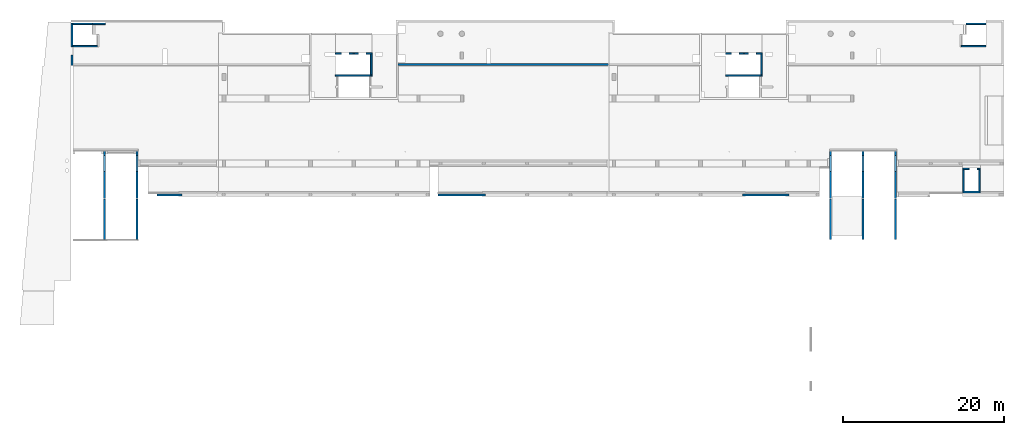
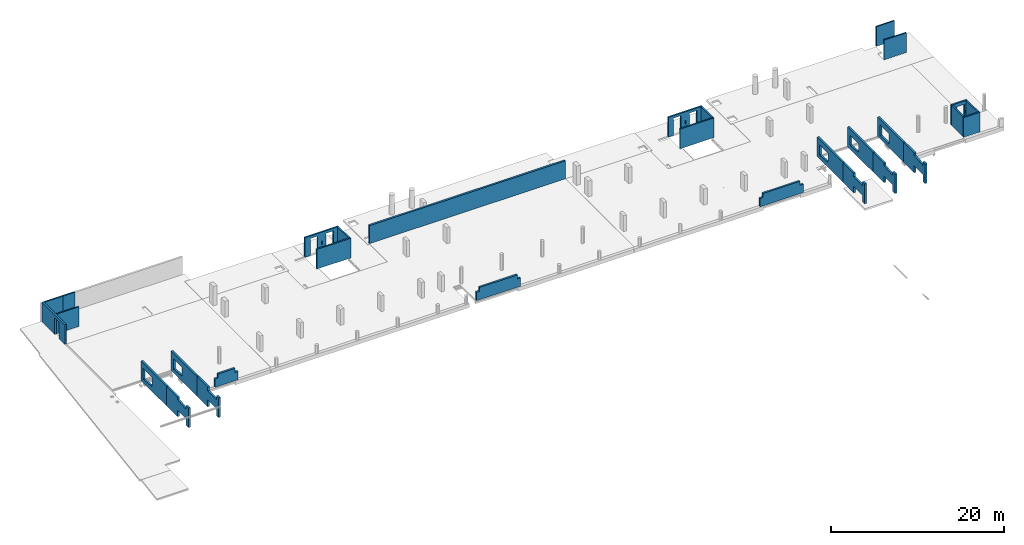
# One storey, part 4 of 8: 30 walls, 31 openings.
"""IFC2X3 building model written with IfcOpenShell, lengths in millimetres."""

from ifc_helpers import new_model, entity, si_unit, converted_unit, derived_unit, direction, frame, frame_2d, origin, origin_2d_with_axis, place, context, subcontext, project, spatial, polyline, rectangle, outline, extrude, material, layer, layer_set, layer_usage, type_object, element, save


model = new_model("IFC2X3")

# Units and contexts
model_context = context("Model", 3, precision=0.01, world=origin(), true_north=direction((6.12303176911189e-17, 1.0)))
body_context = subcontext(model_context, "Body", "Model", "MODEL_VIEW")
ifc_project = project(units=[si_unit("LENGTHUNIT", "METRE", prefix="MILLI"), si_unit("AREAUNIT", "SQUARE_METRE"), si_unit("VOLUMEUNIT", "CUBIC_METRE"), converted_unit("PLANEANGLEUNIT", "DEGREE", entity("IfcRatioMeasure", 0.0174532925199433), si_unit("PLANEANGLEUNIT", "RADIAN"), dimensions=[0, 0, 0, 0, 0, 0, 0]), si_unit("MASSUNIT", "GRAM", prefix="KILO"), derived_unit("MASSDENSITYUNIT", [(si_unit("MASSUNIT", "GRAM", prefix="KILO"), 1), (si_unit("LENGTHUNIT", "METRE"), -3)]), si_unit("TIMEUNIT", "SECOND"), si_unit("FREQUENCYUNIT", "HERTZ"), si_unit("THERMODYNAMICTEMPERATUREUNIT", "DEGREE_CELSIUS"), derived_unit("THERMALTRANSMITTANCEUNIT", [(si_unit("MASSUNIT", "GRAM", prefix="KILO"), 1), (si_unit("THERMODYNAMICTEMPERATUREUNIT", "KELVIN"), -1), (si_unit("TIMEUNIT", "SECOND"), -3)]), derived_unit("VOLUMETRICFLOWRATEUNIT", [(si_unit("LENGTHUNIT", "METRE"), 3), (si_unit("TIMEUNIT", "SECOND"), -1)]), si_unit("ELECTRICCURRENTUNIT", "AMPERE"), si_unit("ELECTRICVOLTAGEUNIT", "VOLT"), si_unit("POWERUNIT", "WATT"), si_unit("FORCEUNIT", "NEWTON", prefix="KILO"), si_unit("ILLUMINANCEUNIT", "LUX"), si_unit("LUMINOUSFLUXUNIT", "LUMEN"), si_unit("LUMINOUSINTENSITYUNIT", "CANDELA"), derived_unit("USERDEFINED", [(si_unit("MASSUNIT", "GRAM", prefix="KILO"), -1), (si_unit("LENGTHUNIT", "METRE"), -2), (si_unit("TIMEUNIT", "SECOND"), 3), (si_unit("LUMINOUSFLUXUNIT", "LUMEN"), 1)]), derived_unit("LINEARVELOCITYUNIT", [(si_unit("LENGTHUNIT", "METRE"), 1), (si_unit("TIMEUNIT", "SECOND"), -1)]), si_unit("PRESSUREUNIT", "PASCAL"), derived_unit("USERDEFINED", [(si_unit("LENGTHUNIT", "METRE"), -2), (si_unit("MASSUNIT", "GRAM", prefix="KILO"), 1), (si_unit("TIMEUNIT", "SECOND"), -2)])], contexts=[model_context])

# Site, building, storey
site_placement = place(None, origin())
site = spatial("IfcSite", under=ifc_project, at=site_placement, Name="Default", CompositionType="ELEMENT")
building_placement = place(site_placement, origin())
building = spatial("IfcBuilding", under=site, at=building_placement, Name="niet gebruiken", CompositionType="ELEMENT")
storey_placement = place(building_placement, frame((0.0, 0.0, 3810.0)))
storey = spatial("IfcBuildingStorey", under=building, at=storey_placement, Name="01a eerste tussenverdieping", CompositionType="ELEMENT", Elevation=3810.0)

# Wall
ifc_material_1 = material(Name="NLRS_f2_beton ihwg")
ifc_layer_1 = layer(ifc_material_1, 250.0)
ifc_layer_set_1 = layer_set([ifc_layer_1], Name="Basic Wall:NLRS_22.21_WA_beton ihwg d=250_gen")
ifc_layer_usage_1 = layer_usage(ifc_layer_set_1, "AXIS2", "NEGATIVE", 125.0)
wall_type_1 = type_object("IfcWallType", Name="Basic Wall:NLRS_22.21_WA_beton ihwg d=250_gen", PredefinedType="STANDARD", material=ifc_layer_set_1)
wall_1_placement = place(storey_placement, frame((74950.0, 41186.0, 0.0), z_axis=(0.0, 0.0, 1.0), x_axis=(-1.0, 0.0, 0.0)))
element("IfcWallStandardCase", 1, at=wall_1_placement, inside=storey, type_object=wall_type_1, material=ifc_layer_usage_1, Name="Basic Wall:NLRS_22.21_WA_beton ihwg d=250_gen", ObjectType="Basic Wall:NLRS_22.21_WA_beton ihwg d=250_gen", context=body_context, shape_type="SweptSolid", body=[
    extrude(rectangle(XDim=26224.9999999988, YDim=249.999999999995, at=frame_2d((13112.4999999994, -2.26663132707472e-12), x_axis=(-1.0, 0.0))), origin(), (0.0, 0.0, 1.0), 2550.0),
])

# Wall, opening
ifc_material_2 = material(Name="NLRS_f2_beton prefab")
ifc_layer_2 = layer(ifc_material_2, 250.0)
ifc_layer_set_2 = layer_set([ifc_layer_2], Name="Basic Wall:NLRS_22.21_WA_beton prefab d=250_gen")
ifc_layer_usage_2 = layer_usage(ifc_layer_set_2, "AXIS2", "NEGATIVE", 125.0)
wall_type_2 = type_object("IfcWallType", Name="Basic Wall:NLRS_22.21_WA_beton prefab d=250_gen", PredefinedType="STANDARD", material=ifc_layer_set_2)
wall_2_placement = place(storey_placement, frame((8100.0, 41061.0, 20.0), z_axis=(0.0, 0.0, 1.0), x_axis=(0.0, 1.0, 0.0)))
wall_2 = element("IfcWallStandardCase", 2, at=wall_2_placement, inside=storey, type_object=wall_type_2, material=ifc_layer_usage_2, Name="Basic Wall:NLRS_22.21_WA_beton prefab d=250_gen", ObjectType="Basic Wall:NLRS_22.21_WA_beton prefab d=250_gen", context=body_context, shape_type="SweptSolid", body=[
    extrude(rectangle(XDim=5294.99999999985, YDim=249.999999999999, at=frame_2d((2647.49999999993, 2.41584530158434e-13), x_axis=(-1.0, 0.0))), origin(), (0.0, 0.0, 1.0), 2780.0),
])
opening_1_placement = place(wall_2_placement, origin())
element("IfcOpeningElement", 3, at=opening_1_placement, cuts=wall_2, Name="Basic Wall:NLRS_22.21_WA_beton prefab d=250_gen", ObjectType="Opening", context=body_context, shape_type="SweptSolid", body=[
    extrude(rectangle(XDim=2450.0, YDim=1025.0, at=frame_2d((-4.32009983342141e-12, -2.27373675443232e-13), x_axis=(0.0, 1.0))), frame((1822.50000000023, -1399.0, 1135.0), z_axis=(0.0, 1.0, 0.0), x_axis=(-1.0, 0.0, 0.0)), (0.0, 0.0, 1.0), 3048.0),
])

ifc_layer_usage_3 = layer_usage(ifc_layer_set_2, "AXIS2", "NEGATIVE", 125.0)
wall_3_placement = place(storey_placement, frame((16200.0, 30426.0, -50.0), z_axis=(0.0, 0.0, 1.0), x_axis=(0.0, -1.0, 0.0)))
wall_3 = element("IfcWallStandardCase", 4, at=wall_3_placement, inside=storey, type_object=wall_type_2, material=ifc_layer_usage_3, Name="Basic Wall:NLRS_22.21_WA_beton prefab d=250_gen", ObjectType="Basic Wall:NLRS_22.21_WA_beton prefab d=250_gen", context=body_context, shape_type="SweptSolid", body=[
    extrude(rectangle(XDim=5934.99999999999, YDim=249.999999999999, at=frame_2d((2967.5, 0.0), x_axis=(-1.0, 0.0))), origin(), (0.0, 0.0, 1.0), 2780.0),
])
opening_2_placement = place(wall_3_placement, origin())
element("IfcOpeningElement", 5, at=opening_2_placement, cuts=wall_3, Name="Basic Wall:NLRS_22.21_WA_beton prefab d=250_gen", ObjectType="Opening", context=body_context, shape_type="SweptSolid", body=[
    extrude(outline(polyline([(-686.502487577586, -1000.0), (786.502487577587, -1000.0), (586.502487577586, 1000.0), (-686.502487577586, 1000.0), (-686.502487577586, -1000.0)])), frame((1550.0, 125.0, 1313.49751242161), z_axis=(0.0, -1.0, 0.0), x_axis=(0.0, 0.0, -1.0)), (0.0, 0.0, 1.0), 250.0),
])

ifc_layer_usage_4 = layer_usage(ifc_layer_set_2, "AXIS2", "NEGATIVE", 125.0)
wall_4_placement = place(storey_placement, frame((102600.0, 30426.0, -50.0), z_axis=(0.0, 0.0, 1.0), x_axis=(0.0, -1.0, 0.0)))
wall_4 = element("IfcWallStandardCase", 6, at=wall_4_placement, inside=storey, type_object=wall_type_2, material=ifc_layer_usage_4, Name="Basic Wall:NLRS_22.21_WA_beton prefab d=250_gen", ObjectType="Basic Wall:NLRS_22.21_WA_beton prefab d=250_gen", context=body_context, shape_type="SweptSolid", body=[
    extrude(rectangle(XDim=5934.99999999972, YDim=250.000000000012, at=frame_2d((2967.49999999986, 0.0), x_axis=(-1.0, 0.0))), origin(), (0.0, 0.0, 1.0), 2780.0),
])
opening_3_placement = place(wall_4_placement, origin())
element("IfcOpeningElement", 7, at=opening_3_placement, cuts=wall_4, Name="Basic Wall:NLRS_22.21_WA_beton prefab d=250_gen", ObjectType="Opening", context=body_context, shape_type="SweptSolid", body=[
    extrude(outline(polyline([(-576.502487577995, -1000.0), (676.502487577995, -1000.0), (676.502487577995, 1000.0), (-776.502487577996, 1000.0), (-576.502487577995, -1000.0)])), frame((1550.0, 125.0, 1303.49751242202), z_axis=(0.0, -1.0, 0.0), x_axis=(0.0, 0.0, 1.0)), (0.0, 0.0, 1.0), 250.0),
])

ifc_layer_usage_5 = layer_usage(ifc_layer_set_2, "AXIS2", "NEGATIVE", 125.0)
wall_5_placement = place(storey_placement, frame((106650.0, 30426.0, -50.0), z_axis=(0.0, 0.0, 1.0), x_axis=(0.0, -1.0, 0.0)))
wall_5 = element("IfcWallStandardCase", 8, at=wall_5_placement, inside=storey, type_object=wall_type_2, material=ifc_layer_usage_5, Name="Basic Wall:NLRS_22.21_WA_beton prefab d=250_gen", ObjectType="Basic Wall:NLRS_22.21_WA_beton prefab d=250_gen", context=body_context, shape_type="SweptSolid", body=[
    extrude(rectangle(XDim=5934.99999999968, YDim=250.000000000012, at=frame_2d((2967.49999999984, 0.0), x_axis=(-1.0, 0.0))), origin(), (0.0, 0.0, 1.0), 2780.0),
])
opening_4_placement = place(wall_5_placement, origin())
element("IfcOpeningElement", 9, at=opening_4_placement, cuts=wall_5, Name="Basic Wall:NLRS_22.21_WA_beton prefab d=250_gen", ObjectType="Opening", context=body_context, shape_type="SweptSolid", body=[
    extrude(outline(polyline([(-1000.0, -676.502487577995), (1000.0, -676.502487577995), (1000.0, 776.502487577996), (-1000.0, 576.502487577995), (-1000.0, -676.502487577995)])), frame((1550.0, 125.0, 1303.49751242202), z_axis=(0.0, -1.0, 0.0), x_axis=(-1.0, 0.0, 0.0)), (0.0, 0.0, 1.0), 250.0),
])

ifc_layer_usage_6 = layer_usage(ifc_layer_set_2, "AXIS2", "NEGATIVE", 125.0)
wall_6_placement = place(storey_placement, frame((110700.0, 30426.0, -50.0), z_axis=(0.0, 0.0, 1.0), x_axis=(0.0, -1.0, 0.0)))
wall_6 = element("IfcWallStandardCase", 10, at=wall_6_placement, inside=storey, type_object=wall_type_2, material=ifc_layer_usage_6, Name="Basic Wall:NLRS_22.21_WA_beton prefab d=250_gen", ObjectType="Basic Wall:NLRS_22.21_WA_beton prefab d=250_gen", context=body_context, shape_type="SweptSolid", body=[
    extrude(rectangle(XDim=5934.99999999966, YDim=250.000000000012, at=frame_2d((2967.49999999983, 0.0), x_axis=(-1.0, 0.0))), origin(), (0.0, 0.0, 1.0), 2780.0),
])
opening_5_placement = place(wall_6_placement, origin())
element("IfcOpeningElement", 11, at=opening_5_placement, cuts=wall_6, Name="Basic Wall:NLRS_22.21_WA_beton prefab d=250_gen", ObjectType="Opening", context=body_context, shape_type="SweptSolid", body=[
    extrude(rectangle(XDim=1500.0, YDim=2000.0, at=frame_2d((2.1600499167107e-12, -5.6843418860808e-13), x_axis=(0.0, 1.0))), frame((1550.0, -1399.0, 1230.0), z_axis=(0.0, 1.0, 0.0), x_axis=(-1.0, 0.0, 0.0)), (0.0, 0.0, 1.0), 3048.0),
])

ifc_layer_usage_7 = layer_usage(ifc_layer_set_2, "AXIS2", "NEGATIVE", 125.0)
wall_7_placement = place(storey_placement, frame((12150.0, 30426.0, -50.0), z_axis=(0.0, 0.0, 1.0), x_axis=(0.0, -1.0, 0.0)))
wall_7 = element("IfcWallStandardCase", 12, at=wall_7_placement, inside=storey, type_object=wall_type_2, material=ifc_layer_usage_7, Name="Basic Wall:NLRS_22.21_WA_beton prefab d=250_gen", ObjectType="Basic Wall:NLRS_22.21_WA_beton prefab d=250_gen", context=body_context, shape_type="SweptSolid", body=[
    extrude(rectangle(XDim=5935.00000000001, YDim=249.999999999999, at=frame_2d((2967.50000000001, 0.0), x_axis=(-1.0, 0.0))), origin(), (0.0, 0.0, 1.0), 2780.0),
])
opening_6_placement = place(wall_7_placement, origin())
element("IfcOpeningElement", 13, at=opening_6_placement, cuts=wall_7, Name="Basic Wall:NLRS_22.21_WA_beton prefab d=250_gen", ObjectType="Opening", context=body_context, shape_type="SweptSolid", body=[
    extrude(outline(polyline([(-596.502487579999, -1020.0), (696.50248758, -1020.0), (696.50248758, 1020.0), (-796.502487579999, 1020.0), (-596.502487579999, -1020.0)])), frame((1550.0, 125.0, 1303.49751242), z_axis=(0.0, -1.0, 0.0), x_axis=(0.0, 0.0, 1.0)), (0.0, 0.0, 1.0), 250.0),
])

# Wall, openings
ifc_layer_usage_8 = layer_usage(ifc_layer_set_2, "AXIS2", "NEGATIVE", 125.0)
wall_8_placement = place(storey_placement, frame((12150.0, 24471.0, -50.0), z_axis=(0.0, 0.0, 1.0), x_axis=(0.0, -1.0, 0.0)))
wall_8 = element("IfcWallStandardCase", 14, at=wall_8_placement, inside=storey, type_object=wall_type_2, material=ifc_layer_usage_8, Name="Basic Wall:NLRS_22.21_WA_beton prefab d=250_gen", ObjectType="Basic Wall:NLRS_22.21_WA_beton prefab d=250_gen", context=body_context, shape_type="SweptSolid", body=[
    extrude(rectangle(XDim=5044.99999999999, YDim=249.999999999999, at=frame_2d((2522.49999999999, 0.0), x_axis=(-1.0, 0.0))), origin(), (0.0, 0.0, 1.0), 2780.0),
])
opening_7_placement = place(wall_8_placement, origin())
element("IfcOpeningElement", 15, at=opening_7_placement, cuts=wall_8, Name="Basic Wall:NLRS_22.21_WA_beton prefab d=250_gen", ObjectType="Opening", context=body_context, shape_type="SweptSolid", body=[
    extrude(rectangle(XDim=939.999999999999, YDim=2000.0, at=frame_2d((-2.8421709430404e-13, 2.1600499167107e-12), x_axis=(1.0, 0.0))), frame((3495.0, 125.0, 470.0), z_axis=(0.0, -1.0, 0.0), x_axis=(0.0, 0.0, 1.0)), (0.0, 0.0, 1.0), 250.0),
])
opening_8_placement = place(wall_8_placement, origin())
element("IfcOpeningElement", 16, at=opening_8_placement, cuts=wall_8, Name="Basic Wall:NLRS_22.21_WA_beton prefab d=250_gen", ObjectType="Opening", context=body_context, shape_type="SweptSolid", body=[
    extrude(outline(polyline([(-210.808960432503, -1000.0), (116.263505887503, -1000.0), (305.354414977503, 1000.0), (-210.808960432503, 1000.0), (-210.808960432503, -1000.0)])), frame((3495.0, 125.0, 2569.1910395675), z_axis=(0.0, -1.0, 0.0), x_axis=(0.0, 0.0, -1.0)), (0.0, 0.0, 1.0), 250.0),
])

ifc_layer_usage_9 = layer_usage(ifc_layer_set_2, "AXIS2", "NEGATIVE", 125.0)
wall_9_placement = place(storey_placement, frame((16200.0, 24471.0, -50.0), z_axis=(0.0, 0.0, 1.0), x_axis=(0.0, -1.0, 0.0)))
wall_9 = element("IfcWallStandardCase", 17, at=wall_9_placement, inside=storey, type_object=wall_type_2, material=ifc_layer_usage_9, Name="Basic Wall:NLRS_22.21_WA_beton prefab d=250_gen", ObjectType="Basic Wall:NLRS_22.21_WA_beton prefab d=250_gen", context=body_context, shape_type="SweptSolid", body=[
    extrude(rectangle(XDim=5045.00000000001, YDim=249.999999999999, at=frame_2d((2522.5, 0.0), x_axis=(-1.0, 0.0))), origin(), (0.0, 0.0, 1.0), 2780.0),
])
opening_9_placement = place(wall_9_placement, origin())
element("IfcOpeningElement", 18, at=opening_9_placement, cuts=wall_9, Name="Basic Wall:NLRS_22.21_WA_beton prefab d=250_gen", ObjectType="Opening", context=body_context, shape_type="SweptSolid", body=[
    extrude(rectangle(XDim=1500.0, YDim=2000.0, at=frame_2d((2.8421709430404e-13, -2.1600499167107e-12), x_axis=(1.0, 0.0))), frame((3495.0, -1649.0, 190.0), z_axis=(0.0, 1.0, 0.0), x_axis=(0.0, 0.0, 1.0)), (0.0, 0.0, 1.0), 3048.0),
])
opening_10_placement = place(wall_9_placement, origin())
element("IfcOpeningElement", 19, at=opening_10_placement, cuts=wall_9, Name="Basic Wall:NLRS_22.21_WA_beton prefab d=250_gen", ObjectType="Opening", context=body_context, shape_type="SweptSolid", body=[
    extrude(rectangle(XDim=539.999999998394, YDim=2000.0, at=frame_2d((2.1600499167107e-12, 0.0), x_axis=(0.0, 1.0))), frame((3495.0, 125.0, 2510.0), z_axis=(0.0, -1.0, 0.0), x_axis=(-1.0, 0.0, 0.0)), (0.0, 0.0, 1.0), 250.0),
])
opening_11_placement = place(wall_9_placement, origin())
element("IfcOpeningElement", 20, at=opening_11_placement, cuts=wall_9, Name="Basic Wall:NLRS_22.21_WA_beton prefab d=250_gen", ObjectType="Opening", context=body_context, shape_type="SweptSolid", body=[
    extrude(rectangle(XDim=940.000000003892, YDim=2000.0, at=frame_2d((2.1600499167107e-12, -2.55795384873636e-13), x_axis=(0.0, -1.0))), frame((3495.0, 125.0, 470.0), z_axis=(0.0, 1.0, 0.0), x_axis=(1.0, 0.0, 0.0)), (0.0, 0.0, -1.0), 250.0),
])

ifc_layer_usage_10 = layer_usage(ifc_layer_set_2, "AXIS2", "NEGATIVE", 125.0)
wall_10_placement = place(storey_placement, frame((102600.0, 24471.0, -50.0), z_axis=(0.0, 0.0, 1.0), x_axis=(0.0, -1.0, 0.0)))
wall_10 = element("IfcWallStandardCase", 21, at=wall_10_placement, inside=storey, type_object=wall_type_2, material=ifc_layer_usage_10, Name="Basic Wall:NLRS_22.21_WA_beton prefab d=250_gen", ObjectType="Basic Wall:NLRS_22.21_WA_beton prefab d=250_gen", context=body_context, shape_type="SweptSolid", body=[
    extrude(rectangle(XDim=5045.00000000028, YDim=250.000000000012, at=frame_2d((2522.50000000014, 0.0), x_axis=(-1.0, 0.0))), origin(), (0.0, 0.0, 1.0), 2780.0),
])
opening_12_placement = place(wall_10_placement, origin())
element("IfcOpeningElement", 22, at=opening_12_placement, cuts=wall_10, Name="Basic Wall:NLRS_22.21_WA_beton prefab d=250_gen", ObjectType="Opening", context=body_context, shape_type="SweptSolid", body=[
    extrude(rectangle(XDim=540.000000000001, YDim=2000.0, at=frame_2d((0.0, 0.0), x_axis=(0.0, 1.0))), frame((3495.0, 125.0, 2510.0), z_axis=(0.0, -1.0, 0.0), x_axis=(-1.0, 0.0, 0.0)), (0.0, 0.0, 1.0), 250.0),
])
opening_13_placement = place(wall_10_placement, origin())
element("IfcOpeningElement", 23, at=opening_13_placement, cuts=wall_10, Name="Basic Wall:NLRS_22.21_WA_beton prefab d=250_gen", ObjectType="Opening", context=body_context, shape_type="SweptSolid", body=[
    extrude(rectangle(XDim=940.000000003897, YDim=2000.0, at=frame_2d((0.0, 2.8421709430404e-13), x_axis=(0.0, 1.0))), frame((3495.0, 125.0, 470.0), z_axis=(0.0, -1.0, 0.0), x_axis=(1.0, 0.0, 0.0)), (0.0, 0.0, 1.0), 250.0),
])

ifc_layer_usage_11 = layer_usage(ifc_layer_set_2, "AXIS2", "NEGATIVE", 125.0)
wall_11_placement = place(storey_placement, frame((106650.0, 24471.0, -50.0), z_axis=(0.0, 0.0, 1.0), x_axis=(0.0, -1.0, 0.0)))
wall_11 = element("IfcWallStandardCase", 24, at=wall_11_placement, inside=storey, type_object=wall_type_2, material=ifc_layer_usage_11, Name="Basic Wall:NLRS_22.21_WA_beton prefab d=250_gen", ObjectType="Basic Wall:NLRS_22.21_WA_beton prefab d=250_gen", context=body_context, shape_type="SweptSolid", body=[
    extrude(rectangle(XDim=5045.0000000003, YDim=250.000000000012, at=frame_2d((2522.50000000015, 0.0), x_axis=(-1.0, 0.0))), origin(), (0.0, 0.0, 1.0), 2780.0),
])
opening_14_placement = place(wall_11_placement, origin())
element("IfcOpeningElement", 25, at=opening_14_placement, cuts=wall_11, Name="Basic Wall:NLRS_22.21_WA_beton prefab d=250_gen", ObjectType="Opening", context=body_context, shape_type="SweptSolid", body=[
    extrude(outline(polyline([(-1000.0, -210.808960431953), (1000.0, -210.808960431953), (1000.0, 116.263505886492), (-1000.0, 305.354414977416), (-1000.0, -210.808960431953)])), frame((3495.0, 125.0, 2569.19103956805), z_axis=(0.0, -1.0, 0.0), x_axis=(-1.0, 0.0, 0.0)), (0.0, 0.0, 1.0), 250.0),
])
opening_15_placement = place(wall_11_placement, origin())
element("IfcOpeningElement", 26, at=opening_15_placement, cuts=wall_11, Name="Basic Wall:NLRS_22.21_WA_beton prefab d=250_gen", ObjectType="Opening", context=body_context, shape_type="SweptSolid", body=[
    extrude(rectangle(XDim=960.000000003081, YDim=2000.0, at=frame_2d((-2.1600499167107e-12, 0.0), x_axis=(0.0, 1.0))), frame((3495.0, 125.0, 480.0), z_axis=(0.0, -1.0, 0.0), x_axis=(1.0, 0.0, 0.0)), (0.0, 0.0, 1.0), 250.0),
])

ifc_layer_usage_12 = layer_usage(ifc_layer_set_2, "AXIS2", "NEGATIVE", 125.0)
wall_12_placement = place(storey_placement, frame((110700.0, 24471.0, -50.0), z_axis=(0.0, 0.0, 1.0), x_axis=(0.0, -1.0, 0.0)))
wall_12 = element("IfcWallStandardCase", 27, at=wall_12_placement, inside=storey, type_object=wall_type_2, material=ifc_layer_usage_12, Name="Basic Wall:NLRS_22.21_WA_beton prefab d=250_gen", ObjectType="Basic Wall:NLRS_22.21_WA_beton prefab d=250_gen", context=body_context, shape_type="SweptSolid", body=[
    extrude(rectangle(XDim=5045.00000000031, YDim=250.000000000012, at=frame_2d((2522.50000000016, 0.0), x_axis=(-1.0, 0.0))), origin(), (0.0, 0.0, 1.0), 2780.0),
])
opening_16_placement = place(wall_12_placement, origin())
element("IfcOpeningElement", 28, at=opening_16_placement, cuts=wall_12, Name="Basic Wall:NLRS_22.21_WA_beton prefab d=250_gen", ObjectType="Opening", context=body_context, shape_type="SweptSolid", body=[
    extrude(outline(polyline([(-1000.0, -210.808960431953), (1000.0, -210.808960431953), (1000.0, 116.263505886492), (-1000.0, 305.354414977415), (-1000.0, -210.808960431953)])), frame((3495.0, 125.0, 2569.19103956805), z_axis=(0.0, -1.0, 0.0), x_axis=(-1.0, 0.0, 0.0)), (0.0, 0.0, 1.0), 250.0),
])
opening_17_placement = place(wall_12_placement, origin())
element("IfcOpeningElement", 29, at=opening_17_placement, cuts=wall_12, Name="Basic Wall:NLRS_22.21_WA_beton prefab d=250_gen", ObjectType="Opening", context=body_context, shape_type="SweptSolid", body=[
    extrude(rectangle(XDim=960.000000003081, YDim=2000.0, at=frame_2d((48.0000000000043, -96.0000000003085), x_axis=(0.0, 1.0))), frame((3447.0, 125.0, 576.0), z_axis=(0.0, -1.0, 0.0), x_axis=(1.0, 0.0, 0.0)), (0.0, 0.0, 1.0), 250.0),
])

# Walls
ifc_layer_3 = layer(ifc_material_2, 180.0)
ifc_layer_set_3 = layer_set([ifc_layer_3], Name="Basic Wall:NLRS_22.21_WA_beton prefab d=180_gen")
ifc_layer_usage_13 = layer_usage(ifc_layer_set_3, "AXIS2", "NEGATIVE", 90.0)
wall_type_3 = type_object("IfcWallType", Name="Basic Wall:NLRS_22.21_WA_beton prefab d=180_gen", PredefinedType="STANDARD", material=ifc_layer_set_3)
wall_13_placement = place(storey_placement, frame((10670.0, 46266.0, 20.0), z_axis=(0.0, 0.0, 1.0), x_axis=(-1.0, 0.0, 0.0)))
element("IfcWallStandardCase", 30, at=wall_13_placement, inside=storey, type_object=wall_type_3, material=ifc_layer_usage_13, Name="Basic Wall:NLRS_22.21_WA_beton prefab d=180_gen", ObjectType="Basic Wall:NLRS_22.21_WA_beton prefab d=180_gen", context=body_context, shape_type="SweptSolid", body=[
    extrude(rectangle(XDim=2444.99999999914, YDim=179.999999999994, at=frame_2d((1222.49999999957, 1.92557081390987e-12), x_axis=(-1.0, 0.0))), origin(), (0.0, 0.0, 1.0), 2780.0),
])
ifc_layer_usage_14 = layer_usage(ifc_layer_set_3, "AXIS2", "NEGATIVE", 90.0)
wall_14_placement = place(storey_placement, frame((11250.000366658, 43486.0, 20.0), z_axis=(0.0, 0.0, 1.0), x_axis=(-1.0, 0.0, 0.0)))
element("IfcWallStandardCase", 31, at=wall_14_placement, inside=storey, type_object=wall_type_3, material=ifc_layer_usage_14, Name="Basic Wall:NLRS_22.21_WA_beton prefab d=180_gen", ObjectType="Basic Wall:NLRS_22.21_WA_beton prefab d=180_gen", context=body_context, shape_type="SweptSolid", body=[
    extrude(rectangle(XDim=3025.00036665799, YDim=179.999999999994, at=frame_2d((1512.500183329, -1.36424205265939e-12), x_axis=(-1.0, 0.0))), origin(), (0.0, 0.0, 1.0), 2780.0),
])
ifc_layer_usage_15 = layer_usage(ifc_layer_set_3, "AXIS2", "NEGATIVE", 90.0)
wall_15_placement = place(storey_placement, frame((12274.9999049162, 46266.0, 20.0), z_axis=(0.0, 0.0, 1.0), x_axis=(-1.0, 0.0, 0.0)))
element("IfcWallStandardCase", 32, at=wall_15_placement, inside=storey, type_object=wall_type_3, material=ifc_layer_usage_15, Name="Basic Wall:NLRS_22.21_WA_beton prefab d=180_gen", ObjectType="Basic Wall:NLRS_22.21_WA_beton prefab d=180_gen", context=body_context, shape_type="SweptSolid", body=[
    extrude(rectangle(XDim=1604.99990491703, YDim=179.999999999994, at=frame_2d((802.499952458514, 0.0), x_axis=(-1.0, 0.0))), origin(), (0.0, 0.0, 1.0), 2780.00000000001),
])
ifc_layer_usage_16 = layer_usage(ifc_layer_set_3, "AXIS2", "NEGATIVE", 90.0)
wall_16_placement = place(storey_placement, frame((119485.0, 46266.0, 20.0)))
element("IfcWallStandardCase", 33, at=wall_16_placement, inside=storey, type_object=wall_type_3, material=ifc_layer_usage_16, Name="Basic Wall:NLRS_22.21_WA_beton prefab d=180_gen", ObjectType="Basic Wall:NLRS_22.21_WA_beton prefab d=180_gen", context=body_context, shape_type="SweptSolid", body=[
    extrude(rectangle(XDim=2444.99929368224, YDim=179.999999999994, at=frame_2d((1222.49964684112, 3.78719278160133e-12), x_axis=(-1.0, 0.0))), origin(), (0.0, 0.0, 1.0), 2780.0),
])
ifc_layer_usage_17 = layer_usage(ifc_layer_set_3, "AXIS2", "NEGATIVE", 90.0)
wall_17_placement = place(storey_placement, frame((118905.002875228, 43486.0, 20.0)))
element("IfcWallStandardCase", 34, at=wall_17_placement, inside=storey, type_object=wall_type_3, material=ifc_layer_usage_17, Name="Basic Wall:NLRS_22.21_WA_beton prefab d=180_gen", ObjectType="Basic Wall:NLRS_22.21_WA_beton prefab d=180_gen", context=body_context, shape_type="SweptSolid", body=[
    extrude(rectangle(XDim=3024.99712477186, YDim=179.999999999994, at=frame_2d((1512.49856238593, -1.07291953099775e-12), x_axis=(-1.0, 0.0))), origin(), (0.0, 0.0, 1.0), 2780.0),
])

# Wall, openings
ifc_layer_4 = layer(ifc_material_2, 200.0)
ifc_layer_set_4 = layer_set([ifc_layer_4], Name="Basic Wall:NLRS_22.21_WA_beton prefab d=200_gen")
ifc_layer_usage_18 = layer_usage(ifc_layer_set_4, "AXIS2", "NEGATIVE", 100.0)
wall_type_4 = type_object("IfcWallType", Name="Basic Wall:NLRS_22.21_WA_beton prefab d=200_gen", PredefinedType="STANDARD", material=ifc_layer_set_4)
wall_18_placement = place(storey_placement, frame((40924.9998491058, 42596.0, -70.0)))
wall_18 = element("IfcWallStandardCase", 35, at=wall_18_placement, inside=storey, type_object=wall_type_4, material=ifc_layer_usage_18, Name="Basic Wall:NLRS_22.21_WA_beton prefab d=200_gen", ObjectType="Basic Wall:NLRS_22.21_WA_beton prefab d=200_gen", context=body_context, shape_type="SweptSolid", body=[
    extrude(rectangle(XDim=4549.9999999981, YDim=200.000000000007, at=frame_2d((2274.99999999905, 0.0), x_axis=(-1.0, 0.0))), origin(), (0.0, 0.0, 1.0), 2780.0),
])
opening_18_placement = place(wall_18_placement, origin())
element("IfcOpeningElement", 36, at=opening_18_placement, cuts=wall_18, Name="Basic Wall:NLRS_22.21_WA_beton prefab d=200_gen", ObjectType="Opening", context=body_context, shape_type="SweptSolid", body=[
    extrude(rectangle(XDim=2430.0, YDim=980.000000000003, at=origin_2d_with_axis()), frame((3330.0, -1624.0, 1195.0), z_axis=(0.0, 1.0, 0.0), x_axis=(0.0, 0.0, 1.0)), (0.0, 0.0, 1.0), 3048.0),
])
opening_19_placement = place(wall_18_placement, origin())
element("IfcOpeningElement", 37, at=opening_19_placement, cuts=wall_18, Name="Basic Wall:NLRS_22.21_WA_beton prefab d=200_gen", ObjectType="Opening", context=body_context, shape_type="SweptSolid", body=[
    extrude(rectangle(XDim=2430.0, YDim=980.000000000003, at=origin_2d_with_axis()), frame((1220.0, -1624.0, 1195.0), z_axis=(0.0, 1.0, 0.0), x_axis=(0.0, 0.0, 1.0)), (0.0, 0.0, 1.0), 3048.0),
])
opening_20_placement = place(wall_18_placement, origin())
element("IfcOpeningElement", 38, at=opening_20_placement, cuts=wall_18, Name="Basic Wall:NLRS_22.21_WA_beton prefab d=200_gen", ObjectType="Opening", context=body_context, shape_type="SweptSolid", body=[
    extrude(rectangle(XDim=505.000000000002, YDim=135.000000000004, at=origin_2d_with_axis()), frame((2275.000150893, -1624.0, 1272.5), z_axis=(0.0, 1.0, 0.0), x_axis=(0.0, 0.0, 1.0)), (0.0, 0.0, 1.0), 3048.0),
])

# Walls
ifc_layer_usage_19 = layer_usage(ifc_layer_set_4, "AXIS2", "NEGATIVE", 100.0)
wall_19_placement = place(storey_placement, frame((45374.999849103, 42496.0, -70.0), z_axis=(0.0, 0.0, 1.0), x_axis=(0.0, -1.0, 0.0)))
element("IfcWallStandardCase", 39, at=wall_19_placement, inside=storey, type_object=wall_type_4, material=ifc_layer_usage_19, Name="Basic Wall:NLRS_22.21_WA_beton prefab d=200_gen", ObjectType="Basic Wall:NLRS_22.21_WA_beton prefab d=200_gen", context=body_context, shape_type="SweptSolid", body=[
    extrude(rectangle(XDim=2549.99999999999, YDim=200.000000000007, at=frame_2d((1275.0, 2.34479102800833e-13), x_axis=(-1.0, 0.0))), origin(), (0.0, 0.0, 1.0), 2780.00000000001),
])
ifc_layer_usage_20 = layer_usage(ifc_layer_set_4, "AXIS2", "NEGATIVE", 100.0)
wall_20_placement = place(storey_placement, frame((45474.999849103, 39846.0, -70.0), z_axis=(0.0, 0.0, 1.0), x_axis=(-1.0, 0.0, 0.0)))
element("IfcWallStandardCase", 40, at=wall_20_placement, inside=storey, type_object=wall_type_4, material=ifc_layer_usage_20, Name="Basic Wall:NLRS_22.21_WA_beton prefab d=200_gen", ObjectType="Basic Wall:NLRS_22.21_WA_beton prefab d=200_gen", context=body_context, shape_type="SweptSolid", body=[
    extrude(rectangle(XDim=4549.99999999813, YDim=200.000000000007, at=frame_2d((2274.99999999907, 0.0), x_axis=(-1.0, 0.0))), origin(), (0.0, 0.0, 1.0), 2780.00000000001),
])

# Wall, openings
ifc_layer_usage_21 = layer_usage(ifc_layer_set_4, "AXIS2", "NEGATIVE", 100.0)
wall_21_placement = place(storey_placement, frame((89525.0, 42596.0, -70.0)))
wall_21 = element("IfcWallStandardCase", 41, at=wall_21_placement, inside=storey, type_object=wall_type_4, material=ifc_layer_usage_21, Name="Basic Wall:NLRS_22.21_WA_beton prefab d=200_gen", ObjectType="Basic Wall:NLRS_22.21_WA_beton prefab d=200_gen", context=body_context, shape_type="SweptSolid", body=[
    extrude(rectangle(XDim=4549.9999999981, YDim=200.000000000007, at=frame_2d((2274.99999999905, 0.0), x_axis=(-1.0, 0.0))), origin(), (0.0, 0.0, 1.0), 2780.0),
])
opening_21_placement = place(wall_21_placement, origin())
element("IfcOpeningElement", 42, at=opening_21_placement, cuts=wall_21, Name="Basic Wall:NLRS_22.21_WA_beton prefab d=200_gen", ObjectType="Opening", context=body_context, shape_type="SweptSolid", body=[
    extrude(rectangle(XDim=2430.0, YDim=980.000000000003, at=frame_2d((0.0, -8.66862137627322e-12), x_axis=(1.0, 0.0))), frame((1220.0, -1624.0, 1195.0), z_axis=(0.0, 1.0, 0.0), x_axis=(0.0, 0.0, 1.0)), (0.0, 0.0, 1.0), 3048.0),
])
opening_22_placement = place(wall_21_placement, origin())
element("IfcOpeningElement", 43, at=opening_22_placement, cuts=wall_21, Name="Basic Wall:NLRS_22.21_WA_beton prefab d=200_gen", ObjectType="Opening", context=body_context, shape_type="SweptSolid", body=[
    extrude(rectangle(XDim=2430.0, YDim=980.000000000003, at=frame_2d((0.0, 8.66862137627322e-12), x_axis=(1.0, 0.0))), frame((3330.0, -1624.0, 1195.0), z_axis=(0.0, 1.0, 0.0), x_axis=(0.0, 0.0, 1.0)), (0.0, 0.0, 1.0), 3048.0),
])
opening_23_placement = place(wall_21_placement, origin())
element("IfcOpeningElement", 44, at=opening_23_placement, cuts=wall_21, Name="Basic Wall:NLRS_22.21_WA_beton prefab d=200_gen", ObjectType="Opening", context=body_context, shape_type="SweptSolid", body=[
    extrude(rectangle(XDim=505.000000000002, YDim=135.000000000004, at=frame_2d((0.0, 8.66151594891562e-12), x_axis=(1.0, 0.0))), frame((2275.000150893, -1624.0, 1272.5), z_axis=(0.0, 1.0, 0.0), x_axis=(0.0, 0.0, 1.0)), (0.0, 0.0, 1.0), 3048.0),
])

# Walls
ifc_layer_usage_22 = layer_usage(ifc_layer_set_4, "AXIS2", "NEGATIVE", 100.0)
wall_22_placement = place(storey_placement, frame((93975.0, 42496.0, -70.0), z_axis=(0.0, 0.0, 1.0), x_axis=(0.0, -1.0, 0.0)))
element("IfcWallStandardCase", 45, at=wall_22_placement, inside=storey, type_object=wall_type_4, material=ifc_layer_usage_22, Name="Basic Wall:NLRS_22.21_WA_beton prefab d=200_gen", ObjectType="Basic Wall:NLRS_22.21_WA_beton prefab d=200_gen", context=body_context, shape_type="SweptSolid", body=[
    extrude(rectangle(XDim=2549.99999999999, YDim=199.999999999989, at=frame_2d((1275.0, -4.09272615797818e-12), x_axis=(-1.0, 0.0))), origin(), (0.0, 0.0, 1.0), 2780.00000000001),
])
ifc_layer_usage_23 = layer_usage(ifc_layer_set_4, "AXIS2", "NEGATIVE", 100.0)
wall_23_placement = place(storey_placement, frame((94075.0, 39846.0, -70.0), z_axis=(0.0, 0.0, 1.0), x_axis=(-1.0, 0.0, 0.0)))
element("IfcWallStandardCase", 46, at=wall_23_placement, inside=storey, type_object=wall_type_4, material=ifc_layer_usage_23, Name="Basic Wall:NLRS_22.21_WA_beton prefab d=200_gen", ObjectType="Basic Wall:NLRS_22.21_WA_beton prefab d=200_gen", context=body_context, shape_type="SweptSolid", body=[
    extrude(rectangle(XDim=4549.99999999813, YDim=200.000000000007, at=frame_2d((2274.99999999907, 0.0), x_axis=(-1.0, 0.0))), origin(), (0.0, 0.0, 1.0), 2780.00000000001),
])
ifc_layer_usage_24 = layer_usage(ifc_layer_set_4, "AXIS2", "NEGATIVE", 100.0)
wall_24_placement = place(storey_placement, frame((121225.0, 25326.0, 30.0), z_axis=(0.0, 0.0, 1.0), x_axis=(-1.0, 0.0, 0.0)))
element("IfcWallStandardCase", 47, at=wall_24_placement, inside=storey, type_object=wall_type_4, material=ifc_layer_usage_24, Name="Basic Wall:NLRS_22.21_WA_beton prefab d=200_gen", ObjectType="Basic Wall:NLRS_22.21_WA_beton prefab d=200_gen", context=body_context, shape_type="SweptSolid", body=[
    extrude(rectangle(XDim=2150.00000000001, YDim=199.999999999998, at=frame_2d((1075.00000000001, -2.48689957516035e-13), x_axis=(-1.0, 0.0))), origin(), (0.0, 0.0, 1.0), 2780.0),
])

# Wall, openings
ifc_layer_usage_25 = layer_usage(ifc_layer_set_4, "AXIS2", "NEGATIVE", 100.0)
wall_25_placement = place(storey_placement, frame((121225.0, 28206.0, 30.0), z_axis=(0.0, 0.0, 1.0), x_axis=(-1.0, 0.0, 0.0)))
wall_25 = element("IfcWallStandardCase", 48, at=wall_25_placement, inside=storey, type_object=wall_type_4, material=ifc_layer_usage_25, Name="Basic Wall:NLRS_22.21_WA_beton prefab d=200_gen", ObjectType="Basic Wall:NLRS_22.21_WA_beton prefab d=200_gen", context=body_context, shape_type="SweptSolid", body=[
    extrude(rectangle(XDim=2150.00000000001, YDim=199.999999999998, at=frame_2d((1075.00000000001, -2.48689957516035e-13), x_axis=(-1.0, 0.0))), origin(), (0.0, 0.0, 1.0), 2780.0),
])
opening_24_placement = place(wall_25_placement, origin())
element("IfcOpeningElement", 49, at=opening_24_placement, cuts=wall_25, Name="Basic Wall:NLRS_22.21_WA_beton prefab d=200_gen", ObjectType="Opening", context=body_context, shape_type="SweptSolid", body=[
    extrude(rectangle(XDim=2340.0, YDim=980.000000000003, at=frame_2d((8.66862137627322e-12, 5.6843418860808e-13), x_axis=(0.0, 1.0))), frame((870.0, -1424.0, 1140.0), z_axis=(0.0, 1.0, 0.0), x_axis=(-1.0, 0.0, 0.0)), (0.0, 0.0, 1.0), 3048.0),
])
opening_25_placement = place(wall_25_placement, origin())
element("IfcOpeningElement", 50, at=opening_25_placement, cuts=wall_25, Name="Basic Wall:NLRS_22.21_WA_beton prefab d=200_gen", ObjectType="Opening", context=body_context, shape_type="SweptSolid", body=[
    extrude(rectangle(XDim=505.000000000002, YDim=75.0000000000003, at=origin_2d_with_axis()), frame((237.500000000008, -1624.0, 1172.5), z_axis=(0.0, 1.0, 0.0), x_axis=(0.0, 0.0, 1.0)), (0.0, 0.0, 1.0), 3048.0),
])

# Walls
ifc_layer_usage_26 = layer_usage(ifc_layer_set_4, "AXIS2", "NEGATIVE", 100.0)
wall_26_placement = place(storey_placement, frame((119175.0, 25426.0, 30.0), z_axis=(0.0, 0.0, 1.0), x_axis=(0.0, 1.0, 0.0)))
element("IfcWallStandardCase", 51, at=wall_26_placement, inside=storey, type_object=wall_type_4, material=ifc_layer_usage_26, Name="Basic Wall:NLRS_22.21_WA_beton prefab d=200_gen", ObjectType="Basic Wall:NLRS_22.21_WA_beton prefab d=200_gen", context=body_context, shape_type="SweptSolid", body=[
    extrude(rectangle(XDim=2680.0, YDim=199.999999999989, at=frame_2d((1340.0, 0.0), x_axis=(-1.0, 0.0))), origin(), (0.0, 0.0, 1.0), 2780.0),
])
ifc_layer_usage_27 = layer_usage(ifc_layer_set_4, "AXIS2", "NEGATIVE", 100.0)
wall_27_placement = place(storey_placement, frame((121125.0, 25426.0, 30.0), z_axis=(0.0, 0.0, 1.0), x_axis=(0.0, 1.0, 0.0)))
element("IfcWallStandardCase", 52, at=wall_27_placement, inside=storey, type_object=wall_type_4, material=ifc_layer_usage_27, Name="Basic Wall:NLRS_22.21_WA_beton prefab d=200_gen", ObjectType="Basic Wall:NLRS_22.21_WA_beton prefab d=200_gen", context=body_context, shape_type="SweptSolid", body=[
    extrude(rectangle(XDim=2680.0, YDim=199.999999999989, at=frame_2d((1340.0, 0.0), x_axis=(-1.0, 0.0))), origin(), (0.0, 0.0, 1.0), 2780.0),
])

# Wall, openings
ifc_layer_5 = layer(ifc_material_2, 250.0)
ifc_layer_set_5 = layer_set([ifc_layer_5], Name="Basic Wall:NLRS_16.21_WA_beton prefab d=250_gen")
ifc_layer_usage_28 = layer_usage(ifc_layer_set_5, "AXIS2", "NEGATIVE", 125.0)
wall_type_5 = type_object("IfcWallType", Name="Basic Wall:NLRS_16.21_WA_beton prefab d=250_gen", PredefinedType="STANDARD", material=ifc_layer_set_5)
wall_28_placement = place(storey_placement, frame((18700.0, 24976.0, 30.0)))
wall_28 = element("IfcWallStandardCase", 53, at=wall_28_placement, inside=storey, type_object=wall_type_5, material=ifc_layer_usage_28, Name="Basic Wall:NLRS_16.21_WA_beton prefab d=250_gen", ObjectType="Basic Wall:NLRS_16.21_WA_beton prefab d=250_gen", context=body_context, shape_type="SweptSolid", body=[
    extrude(rectangle(XDim=3100.0, YDim=250.000000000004, at=frame_2d((1550.0, -1.84741111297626e-13), x_axis=(-1.0, 0.0))), origin(), (0.0, 0.0, 1.0), 1740.0),
])
opening_26_placement = place(wall_28_placement, origin())
element("IfcOpeningElement", 54, at=opening_26_placement, cuts=wall_28, Name="Basic Wall:NLRS_16.21_WA_beton prefab d=250_gen", ObjectType="Opening", context=body_context, shape_type="SweptSolid", body=[
    extrude(rectangle(XDim=559.999999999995, YDim=419.999999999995, at=frame_2d((-5.40012479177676e-13, 2.17426077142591e-12), x_axis=(1.0, 0.0))), frame((2890.0, 125.0, 1460.0), z_axis=(0.0, -1.0, 0.0), x_axis=(0.0, 0.0, 1.0)), (0.0, 0.0, 1.0), 250.0),
])
opening_27_placement = place(wall_28_placement, origin())
element("IfcOpeningElement", 55, at=opening_27_placement, cuts=wall_28, Name="Basic Wall:NLRS_16.21_WA_beton prefab d=250_gen", ObjectType="Opening", context=body_context, shape_type="SweptSolid", body=[
    extrude(rectangle(XDim=559.999999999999, YDim=419.999999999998, at=frame_2d((-1.09423581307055e-12, 0.0), x_axis=(0.0, 1.0))), frame((210.0, 125.0, 1460.0), z_axis=(0.0, -1.0, 0.0), x_axis=(-1.0, 0.0, 0.0)), (0.0, 0.0, 1.0), 250.0),
])

ifc_layer_usage_29 = layer_usage(ifc_layer_set_5, "AXIS2", "NEGATIVE", 125.0)
wall_29_placement = place(storey_placement, frame((53690.0, 24976.0, 30.0)))
wall_29 = element("IfcWallStandardCase", 56, at=wall_29_placement, inside=storey, type_object=wall_type_5, material=ifc_layer_usage_29, Name="Basic Wall:NLRS_16.21_WA_beton prefab d=250_gen", ObjectType="Basic Wall:NLRS_16.21_WA_beton prefab d=250_gen", context=body_context, shape_type="SweptSolid", body=[
    extrude(rectangle(XDim=5909.99999999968, YDim=250.000000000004, at=frame_2d((2954.99999999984, 2.1316282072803e-14), x_axis=(-1.0, 0.0))), origin(), (0.0, 0.0, 1.0), 1740.0),
])
opening_28_placement = place(wall_29_placement, origin())
element("IfcOpeningElement", 57, at=opening_28_placement, cuts=wall_29, Name="Basic Wall:NLRS_16.21_WA_beton prefab d=250_gen", ObjectType="Opening", context=body_context, shape_type="SweptSolid", body=[
    extrude(rectangle(XDim=560.000000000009, YDim=420.000000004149, at=frame_2d((0.0, 8.66862137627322e-12), x_axis=(1.0, 0.0))), frame((5700.0, 125.0, 1460.0), z_axis=(0.0, -1.0, 0.0), x_axis=(0.0, 0.0, 1.0)), (0.0, 0.0, 1.0), 250.0),
])
opening_29_placement = place(wall_29_placement, origin())
element("IfcOpeningElement", 58, at=opening_29_placement, cuts=wall_29, Name="Basic Wall:NLRS_16.21_WA_beton prefab d=250_gen", ObjectType="Opening", context=body_context, shape_type="SweptSolid", body=[
    extrude(rectangle(XDim=560.000000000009, YDim=430.000000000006, at=frame_2d((0.0, 0.0), x_axis=(0.0, 1.0))), frame((215.0, 125.0, 1460.0), z_axis=(0.0, -1.0, 0.0), x_axis=(-1.0, 0.0, 0.0)), (0.0, 0.0, 1.0), 250.0),
])

ifc_layer_usage_30 = layer_usage(ifc_layer_set_5, "AXIS2", "NEGATIVE", 125.0)
wall_30_placement = place(storey_placement, frame((91600.0, 24976.0, 30.0)))
wall_30 = element("IfcWallStandardCase", 59, at=wall_30_placement, inside=storey, type_object=wall_type_5, material=ifc_layer_usage_30, Name="Basic Wall:NLRS_16.21_WA_beton prefab d=250_gen", ObjectType="Basic Wall:NLRS_16.21_WA_beton prefab d=250_gen", context=body_context, shape_type="SweptSolid", body=[
    extrude(rectangle(XDim=5799.99999999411, YDim=250.000000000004, at=frame_2d((2899.99999999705, -2.20268248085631e-13), x_axis=(-1.0, 0.0))), origin(), (0.0, 0.0, 1.0), 1740.0),
])
opening_30_placement = place(wall_30_placement, origin())
element("IfcOpeningElement", 60, at=opening_30_placement, cuts=wall_30, Name="Basic Wall:NLRS_16.21_WA_beton prefab d=250_gen", ObjectType="Opening", context=body_context, shape_type="SweptSolid", body=[
    extrude(rectangle(XDim=560.0, YDim=420.000000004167, at=origin_2d_with_axis()), frame((5590.0, 125.0, 1460.0), z_axis=(0.0, -1.0, 0.0), x_axis=(0.0, 0.0, 1.0)), (0.0, 0.0, 1.0), 250.0),
])
opening_31_placement = place(wall_30_placement, origin())
element("IfcOpeningElement", 61, at=opening_31_placement, cuts=wall_30, Name="Basic Wall:NLRS_16.21_WA_beton prefab d=250_gen", ObjectType="Opening", context=body_context, shape_type="SweptSolid", body=[
    extrude(rectangle(XDim=560.0, YDim=419.999999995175, at=frame_2d((8.66862137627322e-12, 0.0), x_axis=(0.0, 1.0))), frame((210.0, 125.0, 1460.0), z_axis=(0.0, -1.0, 0.0), x_axis=(-1.0, 0.0, 0.0)), (0.0, 0.0, 1.0), 250.0),
])

save(model, "model.ifc")
